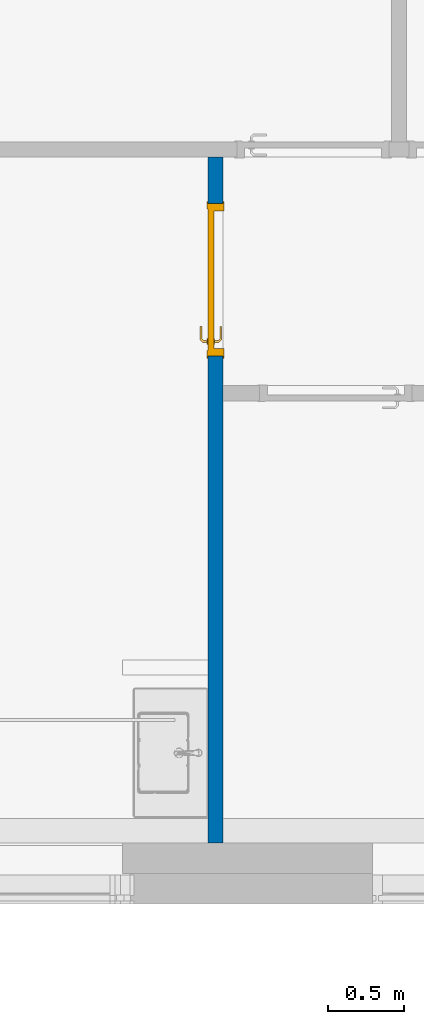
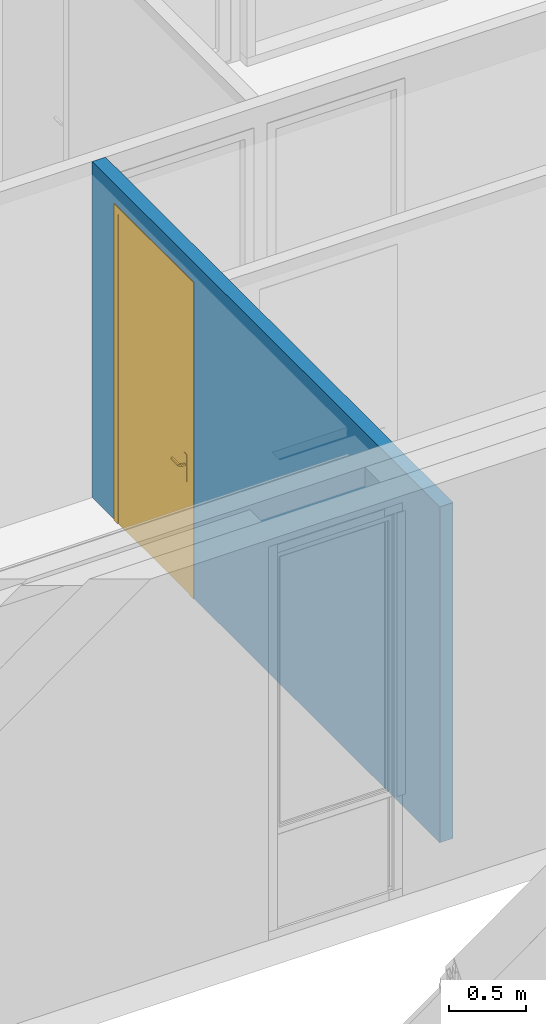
# One storey, part 131 of 240: 1 door, 1 wall, 1 opening.
"""IFC2X3 building model written with IfcOpenShell, lengths in centimetres."""

import ifcopenshell
import ifcopenshell.guid

model = None  # the IFC model being written
_history = None  # IfcOwnerHistory: only IFC2X3 demands one
_inside = {}  # id of a spatial element -> (the spatial element, [elements in it])
_under = {}  # id of a project, library or spatial element -> (it, [spatial elements below it])
_declared = {}  # id of a project -> (the project, [libraries it declares])
_typed = {}  # id of a type object -> (the type object, [elements of that type])
_made_of = {}  # id of a material, layer set ... -> (it, [elements and type objects made of it])


def new_model(schema):
    """Start an empty IFC model of exactly this schema.

    Asked for "IFC4X3", IfcOpenShell would pick the latest addendum, in which some entities
    have other attributes; the version numbers below select the first issue.
    IFC2X3 requires an IfcOwnerHistory on every rooted entity: one is made here for all.
    """
    global model, _history
    if schema == "IFC4X3":
        model = ifcopenshell.file(schema_version=(4, 3, 0, 0))
    else:
        model = ifcopenshell.file(schema=schema)
    _inside.clear()
    _under.clear()
    _declared.clear()
    _typed.clear()
    _made_of.clear()
    _history = None
    if model.schema == "IFC2X3":
        org = make("IfcOrganization", Name="unknown")
        user = make(
            "IfcPersonAndOrganization",
            ThePerson=make("IfcPerson", FamilyName="unknown"),
            TheOrganization=org,
        )
        app = make(
            "IfcApplication",
            ApplicationDeveloper=org,
            Version="unknown",
            ApplicationFullName="unknown",
            ApplicationIdentifier="unknown",
        )
        _history = make(
            "IfcOwnerHistory",
            OwningUser=user,
            OwningApplication=app,
            ChangeAction="ADDED",
            CreationDate=0,
        )
    return model


def make(cls, **values):
    """One entity of the class cls with the attributes given. An attribute that is None is left unset."""
    return model.create_entity(
        cls, **{name: value for name, value in values.items() if value is not None}
    )


def entity(cls, *values):
    """Any entity or typed value of the class cls, its attributes in the order of the schema. None: left unset."""
    e = model.create_entity(cls)
    for i, value in enumerate(values):
        if value is not None:
            e[i] = value
    return e


def rooted(cls, **values):
    """An entity with a GlobalId (a new one), such as an element, a storey or a relation."""
    return make(cls, GlobalId=ifcopenshell.guid.new(), OwnerHistory=_history, **values)


def si_unit(unit_type, name, prefix=None):
    """IfcSIUnit, for example si_unit("LENGTHUNIT", "METRE", prefix="MILLI")."""
    return make("IfcSIUnit", UnitType=unit_type, Prefix=prefix, Name=name)


def converted_unit(unit_type, name, factor, base, dimensions=None, offset=None):
    """IfcConversionBasedUnit, such as the inch: factor (a typed value) times the base unit."""
    return make(
        "IfcConversionBasedUnit"
        if offset is None
        else "IfcConversionBasedUnitWithOffset",
        ConversionOffset=offset,
        Dimensions=None
        if dimensions is None
        else entity("IfcDimensionalExponents", *dimensions),
        UnitType=unit_type,
        Name=name,
        ConversionFactor=make(
            "IfcMeasureWithUnit", ValueComponent=factor, UnitComponent=base
        ),
    )


def derived_unit(unit_type, elements):
    """IfcDerivedUnit: a product of units, each with its exponent."""
    return make(
        "IfcDerivedUnit",
        Elements=[
            make("IfcDerivedUnitElement", Unit=unit, Exponent=power)
            for unit, power in elements
        ],
        UnitType=unit_type,
    )


def assignment(units):
    """IfcUnitAssignment: the units of a project."""
    return None if units is None else make("IfcUnitAssignment", Units=units)


def point(xyz):
    """IfcCartesianPoint."""
    return None if xyz is None else make("IfcCartesianPoint", Coordinates=xyz)


def direction(xyz):
    """IfcDirection."""
    return None if xyz is None else make("IfcDirection", DirectionRatios=xyz)


def frame(location, z_axis=None, x_axis=None):
    """IfcAxis2Placement3D, a coordinate frame: its origin and axes. An axis left out is left unset."""
    return make(
        "IfcAxis2Placement3D",
        Location=point(location),
        Axis=direction(z_axis),
        RefDirection=direction(x_axis),
    )


def frame_2d(location, x_axis=None):
    """IfcAxis2Placement2D, a coordinate frame in the plane: its origin and x axis."""
    return make(
        "IfcAxis2Placement2D", Location=point(location), RefDirection=direction(x_axis)
    )


def origin():
    """The frame at (0, 0, 0) with its axes left unset."""
    return frame((0.0, 0.0, 0.0))


def place(relative_to, where):
    """IfcLocalPlacement: puts the frame where relative to a parent placement (None: the world)."""
    return make(
        "IfcLocalPlacement", PlacementRelTo=relative_to, RelativePlacement=where
    )


def context(
    kind, dimensions, precision=None, world=None, true_north=None, identifier=None
):
    """IfcGeometricRepresentationContext, for example the 3D "Model" context."""
    return make(
        "IfcGeometricRepresentationContext",
        ContextIdentifier=identifier,
        ContextType=kind,
        CoordinateSpaceDimension=dimensions,
        Precision=precision,
        WorldCoordinateSystem=world,
        TrueNorth=true_north,
    )


def subcontext(parent, identifier, kind, view, scale=None):
    """IfcGeometricRepresentationSubContext, for example "Body" below "Model"."""
    return make(
        "IfcGeometricRepresentationSubContext",
        ContextIdentifier=identifier,
        ContextType=kind,
        ParentContext=parent,
        TargetScale=scale,
        TargetView=view,
    )


def project(units=None, contexts=None):
    """IfcProject with its units and contexts."""
    return rooted(
        "IfcProject",
        Name="project",
        RepresentationContexts=contexts,
        UnitsInContext=assignment(units),
    )


def spatial(cls, under=None, at=None, **own):
    """A site, building, storey or space (cls), placed at a placement, below another one or the project."""
    s = rooted(cls, ObjectPlacement=at, **own)
    if under is not None:
        _under.setdefault(under.id(), (under, []))[1].append(s)
    return s


def polyline(points):
    """IfcPolyline through the points."""
    return make("IfcPolyline", Points=[point(p) for p in points])


def profile(cls, at=None, kind="AREA", **sizes):
    """A parametric profile (cls). Its sizes go by their IFC names, for example OverallWidth=200.0."""
    return make(cls, ProfileType=kind, Position=at, **sizes)


def rectangle(**sizes):
    """IfcRectangleProfileDef."""
    return profile("IfcRectangleProfileDef", **sizes)


def extrude(swept, where, along, depth):
    """IfcExtrudedAreaSolid: the profile swept, set in the frame where, extruded along a direction by depth."""
    return make(
        "IfcExtrudedAreaSolid",
        SweptArea=swept,
        Position=where,
        ExtrudedDirection=direction(along),
        Depth=depth,
    )


def clip(a, b, op="DIFFERENCE"):
    """IfcBooleanClippingResult: the solid a cut by the half space b."""
    return make(
        "IfcBooleanClippingResult", Operator=op, FirstOperand=a, SecondOperand=b
    )


def bounded_halfspace(plane, agree, where, boundary):
    """IfcPolygonalBoundedHalfSpace: a half space limited to a polygon's prism."""
    return make(
        "IfcPolygonalBoundedHalfSpace",
        BaseSurface=make("IfcPlane", Position=plane),
        AgreementFlag=agree,
        Position=where,
        PolygonalBoundary=boundary,
    )


def faces_of(points, faces, orient=None, outer=None):
    """IfcFace entities. A face is a list of loops; a loop is a list of indices into points, from 0.

    orient and outer hold one flag for each loop. By default every Orientation is true, the
    first loop of a face is its IfcFaceOuterBound and the others are IfcFaceBound.
    """
    made = []
    for i, loops in enumerate(faces):
        bounds = []
        for j, loop in enumerate(loops):
            is_outer = j == 0 if outer is None else outer[i][j]
            bounds.append(
                make(
                    "IfcFaceOuterBound" if is_outer else "IfcFaceBound",
                    Bound=make("IfcPolyLoop", Polygon=[points[k] for k in loop]),
                    Orientation=True if orient is None else orient[i][j],
                )
            )
        made.append(make("IfcFace", Bounds=bounds))
    return made


def faceted_brep(points, faces, orient=None, outer=None, voids=None):
    """IfcFacetedBrep: a solid bounded by flat faces; with voids (closed shells), ...WithVoids."""
    shared = [point(p) for p in points]
    hull = make("IfcClosedShell", CfsFaces=faces_of(shared, faces, orient, outer))
    if voids is None:
        return make("IfcFacetedBrep", Outer=hull)
    return make(
        "IfcFacetedBrepWithVoids",
        Outer=hull,
        Voids=[
            make(cls, CfsFaces=faces_of(shared, fs, o, b)) for cls, fs, o, b in voids
        ],
    )


def shape(context_of_items, identifier, shape_type, items):
    """IfcShapeRepresentation: the items that make up one representation, for example the "Body"."""
    return make(
        "IfcShapeRepresentation",
        ContextOfItems=context_of_items,
        RepresentationIdentifier=identifier,
        RepresentationType=shape_type,
        Items=items,
    )


def source(mapping_origin, context_of_items, identifier, shape_type, items):
    """IfcRepresentationMap: a shape defined once, which mapped items show again and again."""
    return make(
        "IfcRepresentationMap",
        MappingOrigin=mapping_origin,
        MappedRepresentation=shape(context_of_items, identifier, shape_type, items),
    )


def transform(
    local_origin,
    x_axis=None,
    y_axis=None,
    z_axis=None,
    scale=None,
    scale2=None,
    scale3=None,
    uniform=True,
):
    """IfcCartesianTransformationOperator3D, or its non-uniform kind. x_axis, y_axis, z_axis: its Axis1, 2, 3."""
    if uniform:
        return make(
            "IfcCartesianTransformationOperator3D",
            Axis1=direction(x_axis),
            Axis2=direction(y_axis),
            LocalOrigin=point(local_origin),
            Scale=scale,
            Axis3=direction(z_axis),
        )
    return make(
        "IfcCartesianTransformationOperator3DnonUniform",
        Axis1=direction(x_axis),
        Axis2=direction(y_axis),
        LocalOrigin=point(local_origin),
        Scale=scale,
        Axis3=direction(z_axis),
        Scale2=scale2,
        Scale3=scale3,
    )


def mapped(mapping_source, mapping_target):
    """IfcMappedItem: shows the shape of a source again, moved by a transform."""
    return make(
        "IfcMappedItem", MappingSource=mapping_source, MappingTarget=mapping_target
    )


def material(Name=None, Category=None):
    """IfcMaterial."""
    return make("IfcMaterial", Name=Name, Category=Category)


def material_list(materials):
    """IfcMaterialList."""
    return make("IfcMaterialList", Materials=materials)


def layer(
    of_material, thickness, ventilated=None, Name=None, Category=None, Priority=None
):
    """IfcMaterialLayer: one layer of a wall or slab, of a material (None: an air gap)."""
    return make(
        "IfcMaterialLayer",
        Material=of_material,
        LayerThickness=thickness,
        IsVentilated=ventilated,
        Name=Name,
        Category=Category,
        Priority=Priority,
    )


def layer_set(layers, Name=None):
    """IfcMaterialLayerSet."""
    return make("IfcMaterialLayerSet", MaterialLayers=layers, LayerSetName=Name)


def layer_usage(for_layer_set, set_direction, sense, offset, extent=None):
    """IfcMaterialLayerSetUsage: how a layer set lies in its element."""
    return make(
        "IfcMaterialLayerSetUsage",
        ForLayerSet=for_layer_set,
        LayerSetDirection=set_direction,
        DirectionSense=sense,
        OffsetFromReferenceLine=offset,
        ReferenceExtent=extent,
    )


def made_of(thing, what):
    """Note that an element or type object is made of a material, layer set ...; save() writes the relation."""
    if what is not None:
        _made_of.setdefault(what.id(), (what, []))[1].append(thing)
    return thing


def type_object(cls, material=None, **own):
    """A type object (cls), such as IfcWallType, which elements share."""
    return made_of(rooted(cls, **own), material)


def type_shapes(of_type, sources):
    """Give a type object the sources (RepresentationMaps) that its elements show as mapped items."""
    of_type.RepresentationMaps = sources


def element(
    cls,
    number,
    at=None,
    inside=None,
    cuts=None,
    type_object=None,
    material=None,
    context=None,
    identifier="Body",
    shape_type=None,
    held_by="IfcProductDefinitionShape",
    body=None,
    shapes=None,
    **own,
):
    """One element of the class cls, such as IfcWall. Its Tag is "e" and its number.

    at: its placement. inside: the storey or other place that contains it. cuts: it is an
    opening in that element (IfcRelVoidsElement). A single representation is given by context,
    identifier, shape_type and body (its items); several are given by shapes. held_by: the class
    of the entity that holds the representations. save() writes the other relations.
    """
    e = rooted(cls, Tag="e%d" % number, ObjectPlacement=at, **own)
    if body is not None:
        shapes = [shape(context, identifier, shape_type, body)]
    if shapes is not None:
        e.Representation = make(held_by, Representations=shapes)
    if inside is not None:
        _inside.setdefault(inside.id(), (inside, []))[1].append(e)
    if cuts is not None:
        rooted(
            "IfcRelVoidsElement", RelatingBuildingElement=cuts, RelatedOpeningElement=e
        )
    if type_object is not None:
        _typed.setdefault(type_object.id(), (type_object, []))[1].append(e)
    return made_of(e, material)


def fill(opening, filler):
    """IfcRelFillsElement: the door or window that sits in an opening."""
    return rooted(
        "IfcRelFillsElement",
        RelatingOpeningElement=opening,
        RelatedBuildingElement=filler,
    )


def aggregate(whole, parts):
    """IfcRelAggregates: a whole, such as a stair, and the parts it consists of."""
    return rooted("IfcRelAggregates", RelatingObject=whole, RelatedObjects=parts)


def save(model, path):
    """Write the relations noted so far, then the file.

    IfcRelAggregates (storeys below a building ...), IfcRelContainedInSpatialStructure (elements
    in a storey), IfcRelDefinesByType, IfcRelAssociatesMaterial and IfcRelDeclares: one each for
    every whole, place, type object, material and project.
    """
    for whole, parts in _under.values():
        aggregate(whole, parts)
    for where, things in _inside.values():
        rooted(
            "IfcRelContainedInSpatialStructure",
            RelatedElements=things,
            RelatingStructure=where,
        )
    for kind, things in _typed.values():
        rooted("IfcRelDefinesByType", RelatedObjects=things, RelatingType=kind)
    for what, things in _made_of.values():
        rooted("IfcRelAssociatesMaterial", RelatedObjects=things, RelatingMaterial=what)
    for by, libraries in _declared.values():
        rooted("IfcRelDeclares", RelatingContext=by, RelatedDefinitions=libraries)
    model.write(path)


model = new_model("IFC2X3")

# Units and contexts
model_context = context("Model", 3, precision=0.001, world=origin(), true_north=direction((6.12303176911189e-17, 1.0)))
body_context = subcontext(model_context, "Body", "Model", "MODEL_VIEW")
ifc_project = project(units=[si_unit("LENGTHUNIT", "METRE", prefix="CENTI"), si_unit("AREAUNIT", "SQUARE_METRE"), si_unit("VOLUMEUNIT", "CUBIC_METRE"), converted_unit("PLANEANGLEUNIT", "DEGREE", entity("IfcRatioMeasure", 0.0174532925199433), si_unit("PLANEANGLEUNIT", "RADIAN"), dimensions=[0, 0, 0, 0, 0, 0, 0]), si_unit("MASSUNIT", "GRAM", prefix="KILO"), derived_unit("MASSDENSITYUNIT", [(si_unit("MASSUNIT", "GRAM", prefix="KILO"), 1), (si_unit("LENGTHUNIT", "METRE"), -3)]), si_unit("TIMEUNIT", "SECOND"), si_unit("FREQUENCYUNIT", "HERTZ"), si_unit("THERMODYNAMICTEMPERATUREUNIT", "DEGREE_CELSIUS"), derived_unit("THERMALTRANSMITTANCEUNIT", [(si_unit("MASSUNIT", "GRAM", prefix="KILO"), 1), (si_unit("THERMODYNAMICTEMPERATUREUNIT", "KELVIN"), -1), (si_unit("TIMEUNIT", "SECOND"), -3)]), derived_unit("VOLUMETRICFLOWRATEUNIT", [(si_unit("LENGTHUNIT", "METRE"), 3), (si_unit("TIMEUNIT", "SECOND"), -1)]), si_unit("ELECTRICCURRENTUNIT", "AMPERE"), si_unit("ELECTRICVOLTAGEUNIT", "VOLT"), si_unit("POWERUNIT", "WATT"), si_unit("FORCEUNIT", "NEWTON", prefix="KILO"), si_unit("ILLUMINANCEUNIT", "LUX"), si_unit("LUMINOUSFLUXUNIT", "LUMEN"), si_unit("LUMINOUSINTENSITYUNIT", "CANDELA"), derived_unit("USERDEFINED", [(si_unit("MASSUNIT", "GRAM", prefix="KILO"), -1), (si_unit("LENGTHUNIT", "METRE"), -2), (si_unit("TIMEUNIT", "SECOND"), 3), (si_unit("LUMINOUSFLUXUNIT", "LUMEN"), 1)]), derived_unit("LINEARVELOCITYUNIT", [(si_unit("LENGTHUNIT", "METRE"), 1), (si_unit("TIMEUNIT", "SECOND"), -1)]), si_unit("PRESSUREUNIT", "PASCAL"), derived_unit("USERDEFINED", [(si_unit("LENGTHUNIT", "METRE"), -2), (si_unit("MASSUNIT", "GRAM", prefix="KILO"), 1), (si_unit("TIMEUNIT", "SECOND"), -2)])], contexts=[model_context])

# Site, building, storey
site_placement = place(None, frame((-2781.94577612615, 7442.24238424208, 0.0)))
site = spatial("IfcSite", under=ifc_project, at=site_placement, Name="Default", CompositionType="ELEMENT")
building_placement = place(site_placement, origin())
building = spatial("IfcBuilding", under=site, at=building_placement, CompositionType="ELEMENT")
storey_placement = place(building_placement, origin())
storey = spatial("IfcBuildingStorey", under=building, at=storey_placement, Name="N00 - COO", CompositionType="ELEMENT", Elevation=0.0)

# Wall, opening, door
ifc_material_1 = material(Name="01 - Enduit/Plâtre")
ifc_layer_1 = layer(ifc_material_1, 1.3)
ifc_material_2 = material(Name="00 - Isolant")
ifc_layer_2 = layer(ifc_material_2, 7.4)
ifc_layer_3 = layer(ifc_material_1, 1.3)
ifc_layer_set = layer_set([ifc_layer_1, ifc_layer_2, ifc_layer_3], Name="Mur de base:06 - cloisons - Ba13 10cm")
ifc_layer_usage = layer_usage(ifc_layer_set, "AXIS2", "NEGATIVE", 5.0)
wall_type = type_object("IfcWallType", Name="Mur de base:06 - cloisons - Ba13 10cm", PredefinedType="STANDARD", material=ifc_layer_set)
wall_placement = place(building_placement, frame((-9034.99987760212, -360.0, 0.0), z_axis=(0.0, 0.0, 1.0), x_axis=(0.0, -1.0, 0.0)))
wall = element("IfcWallStandardCase", 1, at=wall_placement, inside=storey, type_object=wall_type, material=ifc_layer_usage, Name="Mur de base:06 - cloisons - Ba13 10cm", ObjectType="Mur de base:06 - cloisons - Ba13 10cm", context=body_context, shape_type="Clipping", body=[
    clip(extrude(rectangle(XDim=450.048500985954, YDim=10.0000000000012, at=frame_2d((225.024250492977, 0.0), x_axis=(-1.0, 0.0))), origin(), (0.0, 0.0, 1.0), 265.5), bounded_halfspace(frame((450.048500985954, -5.0, 265.5), z_axis=(-1.0, 0.0, 0.0), x_axis=(0.0, -1.0, 0.0)), True, frame((450.048500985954, -5.0, 265.5), z_axis=(-1.0, 0.0, 0.0), x_axis=(0.0, -1.0, 0.0)), polyline([(0.0, 0.0), (-10.0, 0.0), (-10.0, -265.5), (0.0, -265.5), (0.0, 0.0)]))),
])
opening_placement = place(wall_placement, frame((130.500000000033, 5.0, 0.0)))
opening = element("IfcOpeningElement", 2, at=opening_placement, cuts=wall, Name="Int. Simple:PP simple (0.93m x 2.50m):1", ObjectType="Opening", context=body_context, shape_type="SweptSolid", body=[
    extrude(rectangle(XDim=248.500000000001, YDim=99.9999999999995, at=frame_2d((124.250000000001, 49.9999999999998), x_axis=(1.0, 0.0))), frame((0.0, 0.0, 0.0), z_axis=(0.0, -1.0, 0.0), x_axis=(0.0, 0.0, 1.0)), (0.0, 0.0, 1.0), 10.0),
])
ifc_material_3 = material(Name="Finition Peinture - Blanc satiné")
ifc_material_4 = material(Name="Bois - Panneau de porte")
ifc_material_5 = material(Name="Bois - Cadre de porte")
ifc_material_list_1 = material_list([ifc_material_3, ifc_material_4, ifc_material_5])
ifc_material_list_2 = material_list([ifc_material_3, ifc_material_4, ifc_material_5])
door_style = type_object("IfcDoorStyle", Name="PP simple (0.93m x 2.50m)", ConstructionType="NOTDEFINED", OperationType="SINGLE_SWING_RIGHT", ParameterTakesPrecedence=False, Sizeable=False, material=ifc_material_list_2)
shared_shape = source(origin(), body_context, "Body", "Brep", [
    faceted_brep([(99.5000000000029, -0.500000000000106, 87.0), (99.5000000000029, -0.500000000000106, 108.0), (98.535276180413, -0.500000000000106, 108.399601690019), (97.5000000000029, -0.500000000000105, 108.535898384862), (96.4647238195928, -0.500000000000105, 108.399601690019), (95.500000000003, -0.500000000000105, 108.0), (95.5000000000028, -0.500000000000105, 87.0), (96.4647238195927, -0.500000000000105, 86.6003983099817), (97.5000000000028, -0.500000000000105, 86.464101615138), (98.5352761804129, -0.500000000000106, 86.6003983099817), (99.5000000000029, 0.0, 108.0), (99.5000000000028, 0.0, 87.0), (98.5352761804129, 0.0, 86.6003983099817), (97.5000000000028, 0.0, 86.464101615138), (96.4647238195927, 0.0, 86.6003983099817), (95.5000000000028, 0.0, 87.0), (95.5000000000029, 0.0, 108.0), (96.4647238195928, 0.0, 108.399601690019), (97.5000000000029, 0.0, 108.535898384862), (98.535276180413, 0.0, 108.399601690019)], [[[0, 1, 2, 3, 4, 5, 6, 7, 8, 9]], [[10, 11, 12, 13, 14, 15, 16, 17, 18, 19]], [[9, 12, 11, 0]], [[8, 13, 12, 9]], [[7, 14, 13, 8]], [[7, 6, 15, 14]], [[15, 6, 5, 16]], [[4, 17, 16, 5]], [[3, 18, 17, 4]], [[2, 19, 18, 3]], [[2, 1, 10, 19]], [[11, 10, 1, 0]]]),
    faceted_brep([(99.5000000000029, 4.0, 87.0), (99.5000000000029, 4.0, 108.0), (98.535276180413, 4.0, 108.399601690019), (97.5000000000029, 4.0, 108.535898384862), (96.4647238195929, 4.0, 108.399601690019), (95.500000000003, 4.0, 108.0), (95.5000000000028, 4.0, 87.0), (96.4647238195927, 4.0, 86.6003983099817), (97.5000000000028, 4.0, 86.464101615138), (98.5352761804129, 4.0, 86.6003983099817), (97.5000000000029, 4.49999999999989, 108.535898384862), (98.535276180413, 4.49999999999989, 108.399601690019), (99.5000000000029, 4.49999999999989, 108.0), (99.5000000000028, 4.49999999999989, 87.0), (98.5352761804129, 4.49999999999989, 86.6003983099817), (97.5000000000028, 4.49999999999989, 86.464101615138), (96.4647238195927, 4.49999999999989, 86.6003983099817), (95.5000000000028, 4.49999999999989, 87.0), (95.500000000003, 4.49999999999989, 108.0), (96.4647238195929, 4.49999999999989, 108.399601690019)], [[[0, 1, 2, 3, 4, 5, 6, 7, 8, 9]], [[10, 11, 12, 13, 14, 15, 16, 17, 18, 19]], [[4, 19, 18, 5]], [[3, 10, 19, 4]], [[2, 11, 10, 3]], [[2, 1, 12, 11]], [[13, 12, 1, 0]], [[9, 14, 13, 0]], [[8, 15, 14, 9]], [[7, 16, 15, 8]], [[7, 6, 17, 16]], [[17, 6, 5, 18]]]),
    faceted_brep([(97.2974701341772, -0.50000000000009, 100.778044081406), (97.7025298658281, -0.500000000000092, 100.778044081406), (98.1000000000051, -0.500000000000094, 100.699999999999), (98.100000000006, -0.500000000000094, 99.2999999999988), (97.7025298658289, -0.500000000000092, 99.221955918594), (97.297470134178, -0.50000000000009, 99.2219559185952), (96.9000000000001, -0.500000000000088, 99.3000000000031), (96.9000000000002, -0.500000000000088, 100.7), (97.7025298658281, -3.10045754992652, 100.778044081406), (98.1000000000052, -3.26509507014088, 100.7), (97.2974701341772, -2.93267631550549, 100.778044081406), (95.9298602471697, -4.30028620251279, 100.778044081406), (96.0976414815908, -4.70534593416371, 100.778044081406), (96.9000000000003, -2.76803879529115, 100.7), (96.9000000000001, -2.76803879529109, 99.3000000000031), (97.297470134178, -2.93267631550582, 99.2219559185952), (97.7025298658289, -3.10045754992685, 99.221955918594), (96.0976414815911, -4.70534593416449, 99.221955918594), (95.9298602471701, -4.30028620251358, 99.2219559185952), (98.100000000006, -3.26509507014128, 99.2999999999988), (96.2622790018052, -5.10281606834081, 100.7), (95.7652227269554, -3.90281606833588, 100.7), (95.7652227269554, -3.90281606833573, 99.3000000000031), (96.2622790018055, -5.10281606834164, 99.2999999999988), (87.4981359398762, -5.10281606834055, 100.7), (87.4981359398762, -4.70534593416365, 100.778044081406), (87.4981359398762, -4.30028620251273, 100.778044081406), (87.4981359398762, -3.90281606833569, 100.699999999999), (87.4981359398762, -3.90281606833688, 99.3000000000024), (87.4981359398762, -4.30028620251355, 99.2219559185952), (87.4981359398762, -4.70534593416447, 99.221955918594), (87.4981359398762, -5.10281606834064, 99.2999999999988), (91.7139980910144, -4.5028160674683, 100.78786867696), (92.2692302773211, -5.1028160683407, 100.7), (91.6316793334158, -3.9028160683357, 100.7), (91.631679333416, -3.9028160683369, 99.3000000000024), (91.7139981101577, -4.50281607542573, 99.2121313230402), (92.2692310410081, -5.10281606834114, 99.2999999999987)], [[[0, 1, 2, 3, 4, 5, 6, 7]], [[2, 1, 8, 9]], [[1, 0, 10, 11, 12, 8]], [[0, 7, 13, 10]], [[14, 13, 7, 6]], [[5, 15, 14, 6]], [[5, 4, 16, 17, 18, 15]], [[3, 19, 16, 4]], [[9, 19, 3, 2]], [[9, 8, 12, 20]], [[10, 13, 21, 11]], [[22, 21, 13, 14]], [[14, 15, 18, 22]], [[16, 19, 23, 17]], [[20, 23, 19, 9]], [[24, 25, 26, 27, 28, 29, 30, 31]], [[32, 25, 33]], [[33, 25, 24]], [[33, 20, 12]], [[11, 34, 32]], [[34, 11, 21]], [[27, 26, 34]], [[32, 26, 25]], [[32, 34, 26]], [[32, 33, 12]], [[11, 32, 12]], [[21, 22, 35, 28, 27, 34]], [[36, 29, 35]], [[30, 36, 37]], [[18, 35, 22]], [[29, 28, 35]], [[30, 37, 31]], [[37, 17, 23]], [[36, 17, 37]], [[36, 18, 17]], [[36, 35, 18]], [[29, 36, 30]], [[23, 20, 33, 24, 31, 37]]]),
    faceted_brep([(97.2974701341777, 4.49999999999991, 99.2219559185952), (97.7025298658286, 4.49999999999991, 99.221955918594), (98.1000000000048, 4.4999999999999, 99.2999999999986), (98.1000000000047, 4.4999999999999, 100.7), (97.7025298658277, 4.49999999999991, 100.778044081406), (97.2974701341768, 4.49999999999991, 100.778044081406), (96.8999999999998, 4.49999999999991, 100.7), (96.900000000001, 4.49999999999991, 99.3000000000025), (96.8999999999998, 6.7485204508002, 100.7), (96.8999999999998, 6.74852045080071, 99.3000000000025), (97.2974701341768, 6.91315797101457, 100.778044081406), (97.7025298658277, 7.0809392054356, 100.778044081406), (96.0838906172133, 8.69957845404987, 100.778044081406), (95.9161093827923, 8.29451872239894, 100.778044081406), (98.1000000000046, 7.24557672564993, 100.7), (98.1000000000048, 7.24557672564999, 99.2999999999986), (97.7025298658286, 7.08093920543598, 99.221955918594), (97.2974701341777, 6.91315797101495, 99.2219559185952), (95.9161093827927, 8.29451872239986, 99.2219559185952), (96.0838906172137, 8.69957845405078, 99.221955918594), (95.751471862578, 7.89704858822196, 100.7), (95.7514718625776, 7.89704858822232, 99.3000000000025), (96.2485281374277, 9.09704858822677, 100.7), (96.2485281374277, 9.09704858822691, 99.2999999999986), (87.4954216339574, 8.29451872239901, 100.778044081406), (87.4954216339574, 8.69957845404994, 100.778044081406), (87.4954216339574, 9.09704858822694, 100.7), (87.4954216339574, 9.09704858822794, 99.2999999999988), (87.4954216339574, 8.6995784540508, 99.221955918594), (87.4954216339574, 8.29451872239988, 99.2219559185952), (87.4954216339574, 7.89704858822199, 99.3000000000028), (87.4954216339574, 7.89704858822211, 100.7), (91.6234467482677, 7.89704858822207, 100.7), (91.6234479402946, 7.89704858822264, 99.3000000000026), (91.7057655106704, 8.49704858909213, 100.78786867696), (92.255479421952, 9.09704858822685, 100.7), (92.2554795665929, 9.09704858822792, 99.2999999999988), (91.7057654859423, 8.49704858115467, 99.2121313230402)], [[[0, 1, 2, 3, 4, 5, 6, 7]], [[8, 9, 7, 6]], [[5, 10, 8, 6]], [[5, 4, 11, 12, 13, 10]], [[3, 14, 11, 4]], [[14, 3, 2, 15]], [[2, 1, 16, 15]], [[1, 0, 17, 18, 19, 16]], [[0, 7, 9, 17]], [[20, 21, 9, 8]], [[8, 10, 13, 20]], [[14, 22, 12, 11]], [[23, 22, 14, 15]], [[15, 16, 19, 23]], [[17, 9, 21, 18]], [[24, 25, 26, 27, 28, 29, 30, 31]], [[21, 20, 32, 31, 30, 33]], [[34, 24, 32]], [[25, 34, 35]], [[13, 32, 20]], [[24, 31, 32]], [[25, 35, 26]], [[35, 12, 22]], [[34, 12, 35]], [[34, 13, 12]], [[34, 32, 13]], [[24, 34, 25]], [[22, 23, 36, 27, 26, 35]], [[37, 28, 36]], [[36, 28, 27]], [[36, 23, 19]], [[18, 33, 37]], [[33, 18, 21]], [[30, 29, 33]], [[37, 29, 28]], [[37, 33, 29]], [[37, 36, 19]], [[18, 37, 19]]]),
    faceted_brep([(103.500000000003, 4.0, 245.0), (103.500000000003, 4.0, 0.0), (10.5000000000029, 4.0, 0.0), (10.5000000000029, 4.0, 245.0), (103.500000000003, 0.0, 245.0), (10.5000000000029, 0.0, 245.0), (10.5000000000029, 0.0, 0.0), (103.500000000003, 0.0, 0.0)], [[[0, 1, 2, 3]], [[4, 5, 6, 7]], [[3, 5, 4, 0]], [[2, 6, 5, 3]], [[1, 7, 6, 2]], [[0, 4, 7, 1]]]),
    faceted_brep([(107.0, 10.0, 0.0), (107.0, 0.0, 0.0), (108.500000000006, 0.0, 0.0), (108.500000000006, -0.500000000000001, 0.0), (103.500000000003, -0.500000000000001, 0.0), (103.500000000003, 4.0, 0.0), (102.0, 4.0, 0.0), (102.0, 10.5000000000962, 0.0), (108.500000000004, 10.5000000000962, 0.0), (108.500000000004, 10.0, 0.0), (107.0, 10.0, 248.500000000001), (107.0, 0.0, 248.500000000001), (108.500000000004, 10.0, 250.0), (5.50000000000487, 10.0, 250.0), (5.50000000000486, 10.0, 0.0), (7.0, 10.0, 0.0), (7.0, 10.0, 248.500000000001), (102.0, 4.0, 243.5), (102.0, 10.5000000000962, 243.5), (103.500000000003, 4.0, 245.0), (10.5000000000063, 4.0, 245.0), (10.5000000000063, 4.0, 0.0), (12.0, 4.0, 0.0), (12.0, 4.0, 243.5), (7.0, 0.0, 0.0), (7.0, 0.0, 248.500000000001), (5.50000000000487, 10.5000000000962, 0.0), (12.0, 10.5000000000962, 0.0), (10.5000000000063, -0.500000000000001, 0.0), (5.5000000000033, -0.500000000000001, 0.0), (5.5000000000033, 0.0, 0.0), (12.0, 10.5000000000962, 243.5), (103.500000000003, -0.500000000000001, 245.0), (108.500000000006, -0.500000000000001, 250.0), (5.5000000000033, -0.500000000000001, 250.0), (10.5000000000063, -0.500000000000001, 245.0), (108.500000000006, 0.0, 250.0), (5.50000000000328, 0.0, 250.0), (108.500000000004, 10.5000000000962, 250.0), (5.50000000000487, 10.5000000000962, 250.0)], [[[0, 1, 2, 3, 4, 5, 6, 7, 8, 9]], [[0, 10, 11, 1]], [[9, 12, 13, 14, 15, 16, 10, 0]], [[7, 6, 17, 18]], [[5, 19, 20, 21, 22, 23, 17, 6]], [[16, 15, 24, 25]], [[15, 14, 26, 27, 22, 21, 28, 29, 30, 24]], [[23, 22, 27, 31]], [[10, 16, 25, 11]], [[17, 23, 31, 18]], [[5, 4, 32, 19]], [[3, 33, 34, 29, 28, 35, 32, 4]], [[2, 36, 33, 3]], [[1, 11, 25, 24, 30, 37, 36, 2]], [[8, 38, 12, 9]], [[7, 18, 31, 27, 26, 39, 38, 8]], [[35, 28, 21, 20]], [[37, 30, 29, 34]], [[39, 26, 14, 13]], [[32, 35, 20, 19]], [[36, 37, 34, 33]], [[38, 39, 13, 12]]]),
])
type_shapes(door_style, [shared_shape])
door_placement = place(opening_placement, frame((-107.0, -10.0, 0.0)))
door = element("IfcDoor", 3, at=door_placement, inside=storey, type_object=door_style, material=ifc_material_list_1, Name="Int. Simple:PP simple (0.93m x 2.50m)", ObjectType="Int. Simple:PP simple (0.93m x 2.50m)", OverallHeight=248.500000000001, OverallWidth=99.9999999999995, context=body_context, shape_type="MappedRepresentation", body=[
    mapped(shared_shape, transform((0.0, 0.0, 0.0), scale=1.0)),
])
fill(opening, door)

save(model, "model.ifc")
